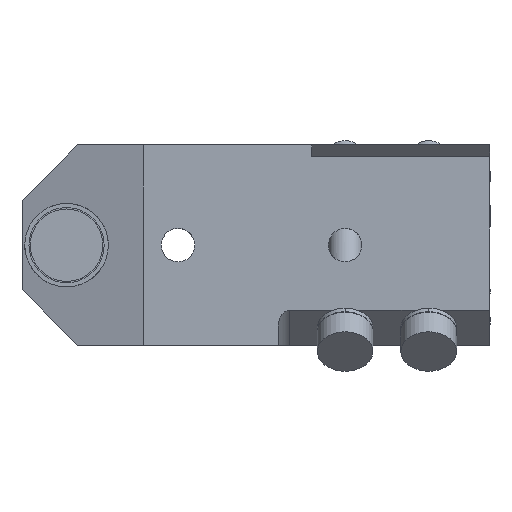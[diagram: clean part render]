
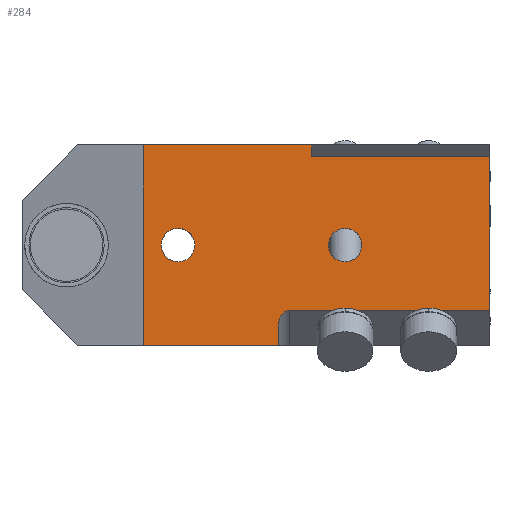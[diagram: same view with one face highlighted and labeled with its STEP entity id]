
A CAD part, front view. The second image highlights one B-rep face of the part: STEP entity #284.
In plain terms, the highlighted planar face has unit normal (0, -1, 0).
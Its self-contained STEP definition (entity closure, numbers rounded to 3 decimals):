
#284=ADVANCED_FACE('Copy of Solid.799136',(#633,#634,#635),#636,.T.);
#633=FACE_OUTER_BOUND('',#1061,.T.);
#634=FACE_BOUND('',#1062,.T.);
#635=FACE_BOUND('',#1063,.T.);
#636=PLANE('',#1064);
#1061=EDGE_LOOP('',(#1872,#1873,#1874,#1875,#1876,#1877,#1878,#1879,#1880,#1881,#1882,#1883,#1884));
#1062=EDGE_LOOP('',(#1885,#1886,#1887,#1888));
#1063=EDGE_LOOP('',(#1889,#1890,#1891,#1892));
#1064=AXIS2_PLACEMENT_3D('',#1893,#1894,#1895);
#1872=ORIENTED_EDGE('',*,*,#2725,.F.);
#1873=ORIENTED_EDGE('',*,*,#2785,.F.);
#1874=ORIENTED_EDGE('',*,*,#2753,.T.);
#1875=ORIENTED_EDGE('',*,*,#2786,.T.);
#1876=ORIENTED_EDGE('',*,*,#2787,.T.);
#1877=ORIENTED_EDGE('',*,*,#2788,.T.);
#1878=ORIENTED_EDGE('',*,*,#2789,.T.);
#1879=ORIENTED_EDGE('',*,*,#2790,.T.);
#1880=ORIENTED_EDGE('',*,*,#2791,.T.);
#1881=ORIENTED_EDGE('',*,*,#2792,.T.);
#1882=ORIENTED_EDGE('',*,*,#2670,.T.);
#1883=ORIENTED_EDGE('',*,*,#2674,.T.);
#1884=ORIENTED_EDGE('',*,*,#2679,.F.);
#1885=ORIENTED_EDGE('',*,*,#2567,.F.);
#1886=ORIENTED_EDGE('',*,*,#2570,.F.);
#1887=ORIENTED_EDGE('',*,*,#2793,.F.);
#1888=ORIENTED_EDGE('',*,*,#2794,.F.);
#1889=ORIENTED_EDGE('',*,*,#2795,.F.);
#1890=ORIENTED_EDGE('',*,*,#2796,.F.);
#1891=ORIENTED_EDGE('',*,*,#2522,.F.);
#1892=ORIENTED_EDGE('',*,*,#2525,.F.);
#1893=CARTESIAN_POINT('',(-6.233,-18.0,0.0));
#1894=DIRECTION('',(0.0,-1.0,0.0));
#1895=DIRECTION('',(1.0,0.0,0.0));
#2522=EDGE_CURVE('',#3010,#3006,#3012,.T.);
#2525=EDGE_CURVE('',#3014,#3010,#3017,.T.);
#2567=EDGE_CURVE('',#3087,#3083,#3089,.T.);
#2570=EDGE_CURVE('',#3091,#3087,#3094,.T.);
#2670=EDGE_CURVE('',#3262,#3260,#3263,.T.);
#2674=EDGE_CURVE('',#3260,#3268,#3269,.T.);
#2679=EDGE_CURVE('',#3274,#3268,#3276,.T.);
#2725=EDGE_CURVE('',#3344,#3274,#3346,.T.);
#2753=EDGE_CURVE('',#3383,#3384,#3385,.T.);
#2785=EDGE_CURVE('',#3383,#3344,#3431,.T.);
#2786=EDGE_CURVE('',#3384,#3432,#3433,.T.);
#2787=EDGE_CURVE('',#3432,#3434,#3435,.T.);
#2788=EDGE_CURVE('',#3434,#3436,#3437,.T.);
#2789=EDGE_CURVE('',#3436,#3438,#3439,.T.);
#2790=EDGE_CURVE('',#3438,#3440,#3441,.T.);
#2791=EDGE_CURVE('',#3440,#3442,#3443,.T.);
#2792=EDGE_CURVE('',#3442,#3262,#3444,.T.);
#2793=EDGE_CURVE('',#3445,#3091,#3446,.T.);
#2794=EDGE_CURVE('',#3083,#3445,#3447,.T.);
#2795=EDGE_CURVE('',#3448,#3014,#3449,.T.);
#2796=EDGE_CURVE('',#3006,#3448,#3450,.T.);
#3006=VERTEX_POINT('',#3756);
#3010=VERTEX_POINT('',#3781);
#3012=CIRCLE('',#3784,3.0);
#3014=VERTEX_POINT('',#3786);
#3017=CIRCLE('',#3790,3.0);
#3083=VERTEX_POINT('',#4087);
#3087=VERTEX_POINT('',#4112);
#3089=CIRCLE('',#4115,3.0);
#3091=VERTEX_POINT('',#4117);
#3094=CIRCLE('',#4121,3.0);
#3260=VERTEX_POINT('',#4681);
#3262=VERTEX_POINT('',#4684);
#3263=LINE('',#4685,#4686);
#3268=VERTEX_POINT('',#4693);
#3269=LINE('',#4694,#4695);
#3274=VERTEX_POINT('',#4702);
#3276=LINE('',#4705,#4706);
#3344=VERTEX_POINT('',#4953);
#3346=LINE('',#4956,#4957);
#3383=VERTEX_POINT('',#5071);
#3384=VERTEX_POINT('',#5072);
#3385=LINE('',#5073,#5074);
#3431=LINE('',#5151,#5152);
#3432=VERTEX_POINT('',#5153);
#3433=LINE('',#5154,#5155);
#3434=VERTEX_POINT('',#5156);
#3435=B_SPLINE_CURVE_WITH_KNOTS('',5,(#5157,#5158,#5159,#5160,#5161,#5162,#5163,#5164,#5165,#5166,#5167,#5168,#5169,#5170,#5171),.UNSPECIFIED.,.F.,.F.,(6,3,3,3,6),(0.0,1.87,3.583,4.588,5.402),.UNSPECIFIED.);
#3436=VERTEX_POINT('',#5172);
#3437=LINE('',#5173,#5174);
#3438=VERTEX_POINT('',#5175);
#3439=LINE('',#5176,#5177);
#3440=VERTEX_POINT('',#5178);
#3441=LINE('',#5179,#5180);
#3442=VERTEX_POINT('',#5181);
#3443=LINE('',#5182,#5183);
#3444=LINE('',#5184,#5185);
#3445=VERTEX_POINT('',#5186);
#3446=CIRCLE('',#5187,3.0);
#3447=CIRCLE('',#5188,3.0);
#3448=VERTEX_POINT('',#5189);
#3449=CIRCLE('',#5190,3.0);
#3450=CIRCLE('',#5191,3.0);
#3756=CARTESIAN_POINT('',(-3.0,-18.0,0.));
#3781=CARTESIAN_POINT('',(-2.633,-18.0,1.438));
#3784=AXIS2_PLACEMENT_3D('',#5566,#5567,#5568);
#3786=CARTESIAN_POINT('',(3.0,-18.0,0.));
#3790=AXIS2_PLACEMENT_3D('',#5570,#5571,#5572);
#4087=CARTESIAN_POINT('',(27.0,-18.0,0.));
#4112=CARTESIAN_POINT('',(27.367,-18.0,1.438));
#4115=AXIS2_PLACEMENT_3D('',#5610,#5611,#5612);
#4117=CARTESIAN_POINT('',(33.0,-18.0,0.));
#4121=AXIS2_PLACEMENT_3D('',#5614,#5615,#5616);
#4681=CARTESIAN_POINT('',(56.0,-18.0,15.879));
#4684=CARTESIAN_POINT('',(56.0,-18.0,-11.698));
#4685=CARTESIAN_POINT('',(56.0,-18.0,2.09));
#4686=VECTOR('',#5701,1.0);
#4693=CARTESIAN_POINT('',(24.0,-18.0,15.879));
#4694=CARTESIAN_POINT('',(40.0,-18.0,15.879));
#4695=VECTOR('',#5704,1.0);
#4702=CARTESIAN_POINT('',(24.0,-18.0,18.0));
#4705=CARTESIAN_POINT('',(24.0,-18.0,16.939));
#4706=VECTOR('',#5708,1.0);
#4953=CARTESIAN_POINT('',(-6.233,-18.0,18.0));
#4956=CARTESIAN_POINT('',(8.883,-18.0,18.0));
#4957=VECTOR('',#5750,1.0);
#5071=CARTESIAN_POINT('',(-6.233,-18.0,-18.0));
#5072=CARTESIAN_POINT('',(18.0,-18.0,-18.0));
#5073=CARTESIAN_POINT('',(5.883,-18.0,-18.0));
#5074=VECTOR('',#5779,1.0);
#5151=CARTESIAN_POINT('',(-6.233,-18.0,0.0));
#5152=VECTOR('',#5812,1.0);
#5153=CARTESIAN_POINT('',(18.0,-18.0,-14.527));
#5154=CARTESIAN_POINT('',(18.0,-18.0,-16.263));
#5155=VECTOR('',#5813,1.0);
#5156=CARTESIAN_POINT('',(20.0,-18.0,-11.698));
#5157=CARTESIAN_POINT('',(18.0,-18.0,-14.527));
#5158=CARTESIAN_POINT('',(18.0,-18.0,-14.262));
#5159=CARTESIAN_POINT('',(18.022,-18.0,-13.998));
#5160=CARTESIAN_POINT('',(18.066,-18.0,-13.736));
#5161=CARTESIAN_POINT('',(18.193,-18.0,-13.243));
#5162=CARTESIAN_POINT('',(18.409,-18.0,-12.782));
#5163=CARTESIAN_POINT('',(18.534,-18.0,-12.572));
#5164=CARTESIAN_POINT('',(18.77,-18.0,-12.264));
#5165=CARTESIAN_POINT('',(19.066,-18.0,-12.016));
#5166=CARTESIAN_POINT('',(19.183,-18.0,-11.935));
#5167=CARTESIAN_POINT('',(19.41,-18.0,-11.81));
#5168=CARTESIAN_POINT('',(19.657,-18.0,-11.734));
#5169=CARTESIAN_POINT('',(19.77,-18.0,-11.71));
#5170=CARTESIAN_POINT('',(19.885,-18.0,-11.698));
#5171=CARTESIAN_POINT('',(20.0,-18.0,-11.698));
#5172=CARTESIAN_POINT('',(27.732,-18.0,-11.698));
#5173=CARTESIAN_POINT('',(23.866,-18.0,-11.698));
#5174=VECTOR('',#5814,1.0);
#5175=CARTESIAN_POINT('',(32.268,-18.0,-11.698));
#5176=CARTESIAN_POINT('',(30.0,-18.0,-11.698));
#5177=VECTOR('',#5815,1.0);
#5178=CARTESIAN_POINT('',(42.732,-18.0,-11.698));
#5179=CARTESIAN_POINT('',(37.5,-18.0,-11.698));
#5180=VECTOR('',#5816,1.0);
#5181=CARTESIAN_POINT('',(47.268,-18.0,-11.698));
#5182=CARTESIAN_POINT('',(45.0,-18.0,-11.698));
#5183=VECTOR('',#5817,1.0);
#5184=CARTESIAN_POINT('',(51.634,-18.0,-11.698));
#5185=VECTOR('',#5818,1.0);
#5186=CARTESIAN_POINT('',(32.633,-18.0,-1.438));
#5187=AXIS2_PLACEMENT_3D('',#5819,#5820,#5821);
#5188=AXIS2_PLACEMENT_3D('',#5822,#5823,#5824);
#5189=CARTESIAN_POINT('',(2.633,-18.0,-1.438));
#5190=AXIS2_PLACEMENT_3D('',#5825,#5826,#5827);
#5191=AXIS2_PLACEMENT_3D('',#5828,#5829,#5830);
#5566=CARTESIAN_POINT('',(0.,-18.0,0.));
#5567=DIRECTION('',(0.0,-1.0,0.0));
#5568=DIRECTION('',(1.0,0.0,0.0));
#5570=CARTESIAN_POINT('',(0.0,-18.0,0.));
#5571=DIRECTION('',(0.0,-1.0,0.0));
#5572=DIRECTION('',(1.0,0.0,0.0));
#5610=CARTESIAN_POINT('',(30.0,-18.0,0.));
#5611=DIRECTION('',(0.0,-1.0,0.0));
#5612=DIRECTION('',(1.0,0.0,0.0));
#5614=CARTESIAN_POINT('',(30.0,-18.0,0.));
#5615=DIRECTION('',(0.0,-1.0,0.0));
#5616=DIRECTION('',(1.0,0.0,0.0));
#5701=DIRECTION('',(0.0,0.0,1.0));
#5704=DIRECTION('',(-1.0,0.0,0.0));
#5708=DIRECTION('',(0.0,0.0,-1.0));
#5750=DIRECTION('',(1.0,0.0,0.0));
#5779=DIRECTION('',(1.0,0.0,0.0));
#5812=DIRECTION('',(0.0,0.0,1.0));
#5813=DIRECTION('',(0.0,0.0,1.0));
#5814=DIRECTION('',(1.0,0.0,0.0));
#5815=DIRECTION('',(1.0,0.0,0.0));
#5816=DIRECTION('',(1.0,0.0,0.0));
#5817=DIRECTION('',(1.0,0.0,0.0));
#5818=DIRECTION('',(1.0,0.0,0.0));
#5819=CARTESIAN_POINT('',(30.0,-18.0,0.));
#5820=DIRECTION('',(0.0,-1.0,0.0));
#5821=DIRECTION('',(1.0,0.0,0.0));
#5822=CARTESIAN_POINT('',(30.0,-18.0,0.));
#5823=DIRECTION('',(0.0,-1.0,0.0));
#5824=DIRECTION('',(1.0,0.0,0.0));
#5825=CARTESIAN_POINT('',(0.0,-18.0,0.));
#5826=DIRECTION('',(0.0,-1.0,0.0));
#5827=DIRECTION('',(1.0,0.0,0.0));
#5828=CARTESIAN_POINT('',(0.,-18.0,0.));
#5829=DIRECTION('',(0.0,-1.0,0.0));
#5830=DIRECTION('',(1.0,0.0,0.0));
